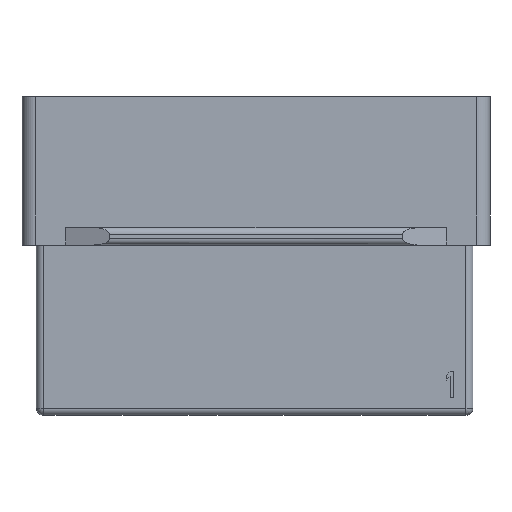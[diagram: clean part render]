
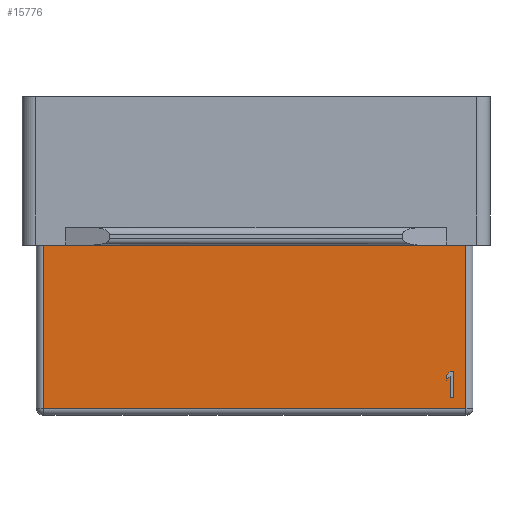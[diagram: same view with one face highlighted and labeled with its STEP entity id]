
A CAD part, front view. The second image highlights one B-rep face of the part: STEP entity #15776.
In plain terms, the highlighted planar face has unit normal (0, -1, 0).
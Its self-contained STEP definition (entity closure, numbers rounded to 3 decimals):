
#4625=DIRECTION('',(-1.,0.,0.));
#4626=VECTOR('',#4625,48.4);
#4627=CARTESIAN_POINT('',(24.05,-6.4,-17.));
#4628=LINE('',#4627,#4626);
#4878=DIRECTION('',(1.,0.,0.));
#4879=VECTOR('',#4878,48.4);
#4880=CARTESIAN_POINT('',(-24.35,-6.4,-35.7));
#4881=LINE('',#4880,#4879);
#4882=DIRECTION('',(0.,0.,1.));
#4883=VECTOR('',#4882,18.7);
#4884=CARTESIAN_POINT('',(-24.35,-6.4,-35.7));
#4885=LINE('',#4884,#4883);
#4886=DIRECTION('',(0.,0.,-1.));
#4887=VECTOR('',#4886,18.7);
#4888=CARTESIAN_POINT('',(24.05,-6.4,-17.));
#4889=LINE('',#4888,#4887);
#4890=DIRECTION('',(0.,0.,1.));
#4891=VECTOR('',#4890,3.);
#4892=CARTESIAN_POINT('',(22.6,-6.4,-34.5));
#4893=LINE('',#4892,#4891);
#4894=DIRECTION('',(-1.,0.,0.));
#4895=VECTOR('',#4894,0.375);
#4896=CARTESIAN_POINT('',(22.6,-6.4,-31.5));
#4897=LINE('',#4896,#4895);
#4898=DIRECTION('',(-0.643,0.,-0.766));
#4899=VECTOR('',#4898,0.583);
#4900=CARTESIAN_POINT('',(22.225,-6.4,-31.5));
#4901=LINE('',#4900,#4899);
#4902=DIRECTION('',(0.,0.,-1.));
#4903=VECTOR('',#4902,0.511);
#4904=CARTESIAN_POINT('',(21.85,-6.4,-31.947));
#4905=LINE('',#4904,#4903);
#4906=DIRECTION('',(0.643,0.,0.766));
#4907=VECTOR('',#4906,0.583);
#4908=CARTESIAN_POINT('',(21.85,-6.4,-32.457));
#4909=LINE('',#4908,#4907);
#4910=DIRECTION('',(0.,0.,-1.));
#4911=VECTOR('',#4910,2.489);
#4912=CARTESIAN_POINT('',(22.225,-6.4,-32.011));
#4913=LINE('',#4912,#4911);
#4914=DIRECTION('',(1.,0.,0.));
#4915=VECTOR('',#4914,0.375);
#4916=CARTESIAN_POINT('',(22.225,-6.4,-34.5));
#4917=LINE('',#4916,#4915);
#7088=CARTESIAN_POINT('',(-24.35,-6.4,-35.7));
#7089=CARTESIAN_POINT('',(24.05,-6.4,-35.7));
#7090=VERTEX_POINT('',#7088);
#7091=VERTEX_POINT('',#7089);
#7104=CARTESIAN_POINT('',(-24.35,-6.4,-17.));
#7105=VERTEX_POINT('',#7104);
#7150=CARTESIAN_POINT('',(24.05,-6.4,-17.));
#7151=VERTEX_POINT('',#7150);
#7234=CARTESIAN_POINT('',(22.6,-6.4,-34.5));
#7235=CARTESIAN_POINT('',(22.6,-6.4,-31.5));
#7236=VERTEX_POINT('',#7234);
#7237=VERTEX_POINT('',#7235);
#7238=CARTESIAN_POINT('',(22.225,-6.4,-31.5));
#7239=VERTEX_POINT('',#7238);
#7240=CARTESIAN_POINT('',(21.85,-6.4,-31.947));
#7241=VERTEX_POINT('',#7240);
#7242=CARTESIAN_POINT('',(21.85,-6.4,-32.457));
#7243=VERTEX_POINT('',#7242);
#7244=CARTESIAN_POINT('',(22.225,-6.4,-32.011));
#7245=VERTEX_POINT('',#7244);
#7246=CARTESIAN_POINT('',(22.225,-6.4,-34.5));
#7247=VERTEX_POINT('',#7246);
#15747=CARTESIAN_POINT('',(24.85,-6.4,-36.5));
#15748=DIRECTION('',(0.,-1.,0.));
#15749=DIRECTION('',(0.,0.,1.));
#15750=AXIS2_PLACEMENT_3D('',#15747,#15748,#15749);
#15751=PLANE('',#15750);
#15753=ORIENTED_EDGE('',*,*,#15752,.F.);
#15754=ORIENTED_EDGE('',*,*,#15739,.T.);
#15755=ORIENTED_EDGE('',*,*,#15442,.F.);
#15757=ORIENTED_EDGE('',*,*,#15756,.T.);
#15758=EDGE_LOOP('',(#15753,#15754,#15755,#15757));
#15759=FACE_OUTER_BOUND('',#15758,.F.);
#15761=ORIENTED_EDGE('',*,*,#15760,.T.);
#15763=ORIENTED_EDGE('',*,*,#15762,.T.);
#15765=ORIENTED_EDGE('',*,*,#15764,.T.);
#15767=ORIENTED_EDGE('',*,*,#15766,.T.);
#15769=ORIENTED_EDGE('',*,*,#15768,.T.);
#15771=ORIENTED_EDGE('',*,*,#15770,.T.);
#15773=ORIENTED_EDGE('',*,*,#15772,.T.);
#15774=EDGE_LOOP('',(#15761,#15763,#15765,#15767,#15769,#15771,#15773));
#15775=FACE_BOUND('',#15774,.F.);
#15776=ADVANCED_FACE('',(#15759,#15775),#15751,.T.);
#15442=EDGE_CURVE('',#7151,#7105,#4628,.T.);
#15739=EDGE_CURVE('',#7090,#7105,#4885,.T.);
#15752=EDGE_CURVE('',#7090,#7091,#4881,.T.);
#15756=EDGE_CURVE('',#7151,#7091,#4889,.T.);
#15760=EDGE_CURVE('',#7236,#7237,#4893,.T.);
#15762=EDGE_CURVE('',#7237,#7239,#4897,.T.);
#15764=EDGE_CURVE('',#7239,#7241,#4901,.T.);
#15766=EDGE_CURVE('',#7241,#7243,#4905,.T.);
#15768=EDGE_CURVE('',#7243,#7245,#4909,.T.);
#15770=EDGE_CURVE('',#7245,#7247,#4913,.T.);
#15772=EDGE_CURVE('',#7247,#7236,#4917,.T.);
